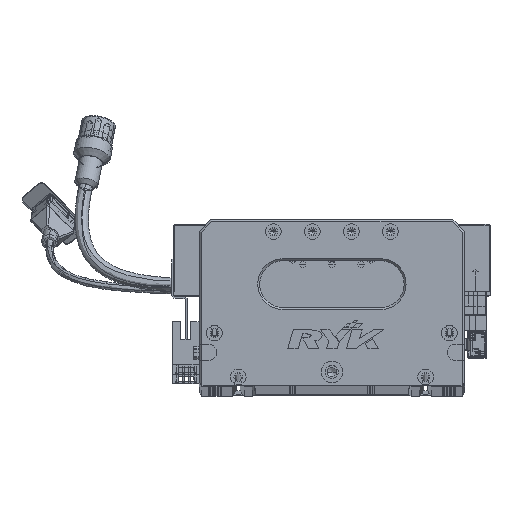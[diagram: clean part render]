
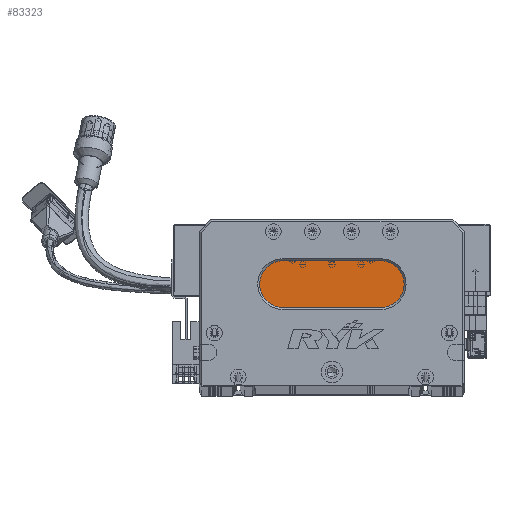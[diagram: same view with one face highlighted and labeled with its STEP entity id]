
A CAD part, top view. The second image highlights one B-rep face of the part: STEP entity #83323.
In plain terms, the highlighted planar face has unit normal (0, 0, 1) as drawn and (0, 0, -1) by its records, which use the part's own axes.
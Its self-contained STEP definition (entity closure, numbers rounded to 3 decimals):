
#958 = DIRECTION ( 'NONE',  ( -1., 0., 0. ) ) ;
#1042 = CARTESIAN_POINT ( 'NONE',  ( 31., 52., 13. ) ) ;
#1458 = CARTESIAN_POINT ( 'NONE',  ( 43., 40., 13. ) ) ;
#1859 = CIRCLE ( 'NONE', #118492, 12. ) ;
#10653 = DIRECTION ( 'NONE',  ( 0., 0., -1. ) ) ;
#10816 = CIRCLE ( 'NONE', #128586, 12. ) ;
#13192 = ORIENTED_EDGE ( 'NONE', *, *, #65545, .T. ) ;
#15443 = CARTESIAN_POINT ( 'NONE',  ( 93., 64., 13. ) ) ;
#15740 = LINE ( 'NONE', #48473, #43575 ) ;
#22525 = DIRECTION ( 'NONE',  ( -1., 0., 0. ) ) ;
#22930 = CARTESIAN_POINT ( 'NONE',  ( 43., 52., 13. ) ) ;
#28324 = DIRECTION ( 'NONE',  ( -1., 0., 0. ) ) ;
#28360 = ORIENTED_EDGE ( 'NONE', *, *, #59227, .T. ) ;
#28604 = CIRCLE ( 'NONE', #129799, 12. ) ;
#29136 = ORIENTED_EDGE ( 'NONE', *, *, #98383, .T. ) ;
#31721 = CARTESIAN_POINT ( 'NONE',  ( 93., 52., 13. ) ) ;
#33596 = VECTOR ( 'NONE', #57593, 1000. ) ;
#43575 = VECTOR ( 'NONE', #28324, 1000. ) ;
#43588 = CARTESIAN_POINT ( 'NONE',  ( 93., 64., 13. ) ) ;
#48473 = CARTESIAN_POINT ( 'NONE',  ( 93., 40., 13. ) ) ;
#48850 = VERTEX_POINT ( 'NONE', #79257 ) ;
#50615 = CARTESIAN_POINT ( 'NONE',  ( 43., 52., 13. ) ) ;
#51680 = ORIENTED_EDGE ( 'NONE', *, *, #84134, .T. ) ;
#55509 = PLANE ( 'NONE',  #113421 ) ;
#55967 = CARTESIAN_POINT ( 'NONE',  ( 93., 52., 13. ) ) ;
#57593 = DIRECTION ( 'NONE',  ( 1., 0., 0. ) ) ;
#58200 = LINE ( 'NONE', #15443, #33596 ) ;
#59227 = EDGE_CURVE ( 'NONE', #106260, #90416, #15740, .T. ) ;
#65545 = EDGE_CURVE ( 'NONE', #48850, #122472, #58200, .T. ) ;
#71368 = DIRECTION ( 'NONE',  ( 0., 0., -1. ) ) ;
#71655 = FACE_OUTER_BOUND ( 'NONE', #86314, .T. ) ;
#74761 = CARTESIAN_POINT ( 'NONE',  ( 93., 40., 13. ) ) ;
#78541 = ORIENTED_EDGE ( 'NONE', *, *, #131954, .T. ) ;
#79257 = CARTESIAN_POINT ( 'NONE',  ( 43., 64., 13. ) ) ;
#81496 = DIRECTION ( 'NONE',  ( -1., 0., 0. ) ) ;
#83323 = ADVANCED_FACE ( 'NONE', ( #71655 ), #55509, .T. ) ;
#84134 = EDGE_CURVE ( 'NONE', #135232, #48850, #10816, .T. ) ;
#84165 = DIRECTION ( 'NONE',  ( -1., 0., 0. ) ) ;
#86314 = EDGE_LOOP ( 'NONE', ( #29136, #28360, #78541, #51680, #13192 ) ) ;
#90416 = VERTEX_POINT ( 'NONE', #1458 ) ;
#95057 = DIRECTION ( 'NONE',  ( 0., 0., -1. ) ) ;
#96031 = DIRECTION ( 'NONE',  ( 0., 0., -1. ) ) ;
#98383 = EDGE_CURVE ( 'NONE', #122472, #106260, #28604, .T. ) ;
#106260 = VERTEX_POINT ( 'NONE', #74761 ) ;
#113421 = AXIS2_PLACEMENT_3D ( 'NONE', #55967, #96031, #22525 ) ;
#118492 = AXIS2_PLACEMENT_3D ( 'NONE', #22930, #95057, #958 ) ;
#122472 = VERTEX_POINT ( 'NONE', #43588 ) ;
#128586 = AXIS2_PLACEMENT_3D ( 'NONE', #50615, #71368, #81496 ) ;
#129799 = AXIS2_PLACEMENT_3D ( 'NONE', #31721, #10653, #84165 ) ;
#131954 = EDGE_CURVE ( 'NONE', #90416, #135232, #1859, .T. ) ;
#135232 = VERTEX_POINT ( 'NONE', #1042 ) ;
